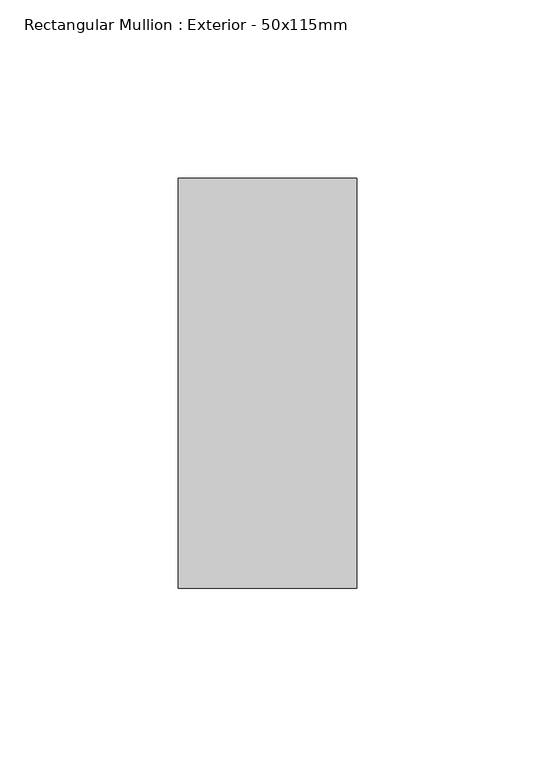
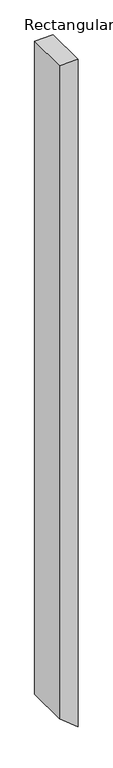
"""IFC4 building model written with IfcOpenShell, lengths in millimetres: member geometry, Rectangular Mullion : Exterior - 50x115mm."""

import ifcopenshell
import ifcopenshell.guid

model = None  # the IFC model being written
_history = None  # IfcOwnerHistory: only IFC2X3 demands one
_inside = {}  # id of a spatial element -> (the spatial element, [elements in it])
_under = {}  # id of a project, library or spatial element -> (it, [spatial elements below it])
_declared = {}  # id of a project -> (the project, [libraries it declares])
_typed = {}  # id of a type object -> (the type object, [elements of that type])
_made_of = {}  # id of a material, layer set ... -> (it, [elements and type objects made of it])


def new_model(schema):
    """Start an empty IFC model of exactly this schema.

    Asked for "IFC4X3", IfcOpenShell would pick the latest addendum, in which some entities
    have other attributes; the version numbers below select the first issue.
    IFC2X3 requires an IfcOwnerHistory on every rooted entity: one is made here for all.
    """
    global model, _history
    if schema == "IFC4X3":
        model = ifcopenshell.file(schema_version=(4, 3, 0, 0))
    else:
        model = ifcopenshell.file(schema=schema)
    _inside.clear()
    _under.clear()
    _declared.clear()
    _typed.clear()
    _made_of.clear()
    _history = None
    if model.schema == "IFC2X3":
        org = make("IfcOrganization", Name="unknown")
        user = make(
            "IfcPersonAndOrganization",
            ThePerson=make("IfcPerson", FamilyName="unknown"),
            TheOrganization=org,
        )
        app = make(
            "IfcApplication",
            ApplicationDeveloper=org,
            Version="unknown",
            ApplicationFullName="unknown",
            ApplicationIdentifier="unknown",
        )
        _history = make(
            "IfcOwnerHistory",
            OwningUser=user,
            OwningApplication=app,
            ChangeAction="ADDED",
            CreationDate=0,
        )
    return model


def make(cls, **values):
    """One entity of the class cls with the attributes given. An attribute that is None is left unset."""
    return model.create_entity(
        cls, **{name: value for name, value in values.items() if value is not None}
    )


def rooted(cls, **values):
    """An entity with a GlobalId (a new one), such as an element, a storey or a relation."""
    return make(cls, GlobalId=ifcopenshell.guid.new(), OwnerHistory=_history, **values)


def si_unit(unit_type, name, prefix=None):
    """IfcSIUnit, for example si_unit("LENGTHUNIT", "METRE", prefix="MILLI")."""
    return make("IfcSIUnit", UnitType=unit_type, Prefix=prefix, Name=name)


def assignment(units):
    """IfcUnitAssignment: the units of a project."""
    return None if units is None else make("IfcUnitAssignment", Units=units)


def point(xyz):
    """IfcCartesianPoint."""
    return None if xyz is None else make("IfcCartesianPoint", Coordinates=xyz)


def direction(xyz):
    """IfcDirection."""
    return None if xyz is None else make("IfcDirection", DirectionRatios=xyz)


def frame(location, z_axis=None, x_axis=None):
    """IfcAxis2Placement3D, a coordinate frame: its origin and axes. An axis left out is left unset."""
    return make(
        "IfcAxis2Placement3D",
        Location=point(location),
        Axis=direction(z_axis),
        RefDirection=direction(x_axis),
    )


def origin():
    """The frame at (0, 0, 0) with its axes left unset."""
    return frame((0.0, 0.0, 0.0))


def place(relative_to, where):
    """IfcLocalPlacement: puts the frame where relative to a parent placement (None: the world)."""
    return make(
        "IfcLocalPlacement", PlacementRelTo=relative_to, RelativePlacement=where
    )


def context(
    kind, dimensions, precision=None, world=None, true_north=None, identifier=None
):
    """IfcGeometricRepresentationContext, for example the 3D "Model" context."""
    return make(
        "IfcGeometricRepresentationContext",
        ContextIdentifier=identifier,
        ContextType=kind,
        CoordinateSpaceDimension=dimensions,
        Precision=precision,
        WorldCoordinateSystem=world,
        TrueNorth=true_north,
    )


def project(units=None, contexts=None):
    """IfcProject with its units and contexts."""
    return rooted(
        "IfcProject",
        Name="project",
        RepresentationContexts=contexts,
        UnitsInContext=assignment(units),
    )


def spatial(cls, under=None, at=None, **own):
    """A site, building, storey or space (cls), placed at a placement, below another one or the project."""
    s = rooted(cls, ObjectPlacement=at, **own)
    if under is not None:
        _under.setdefault(under.id(), (under, []))[1].append(s)
    return s


def polyline(points):
    """IfcPolyline through the points."""
    return make("IfcPolyline", Points=[point(p) for p in points])


def outline(outer, holes=None, kind="AREA"):
    """IfcArbitraryClosedProfileDef: a profile drawn as a closed curve; with holes, ...WithVoids."""
    if holes is None:
        return make("IfcArbitraryClosedProfileDef", ProfileType=kind, OuterCurve=outer)
    return make(
        "IfcArbitraryProfileDefWithVoids",
        ProfileType=kind,
        OuterCurve=outer,
        InnerCurves=holes,
    )


def extrude(swept, where, along, depth):
    """IfcExtrudedAreaSolid: the profile swept, set in the frame where, extruded along a direction by depth."""
    return make(
        "IfcExtrudedAreaSolid",
        SweptArea=swept,
        Position=where,
        ExtrudedDirection=direction(along),
        Depth=depth,
    )


def shape(context_of_items, identifier, shape_type, items):
    """IfcShapeRepresentation: the items that make up one representation, for example the "Body"."""
    return make(
        "IfcShapeRepresentation",
        ContextOfItems=context_of_items,
        RepresentationIdentifier=identifier,
        RepresentationType=shape_type,
        Items=items,
    )


def source(mapping_origin, context_of_items, identifier, shape_type, items):
    """IfcRepresentationMap: a shape defined once, which mapped items show again and again."""
    return make(
        "IfcRepresentationMap",
        MappingOrigin=mapping_origin,
        MappedRepresentation=shape(context_of_items, identifier, shape_type, items),
    )


def transform(
    local_origin,
    x_axis=None,
    y_axis=None,
    z_axis=None,
    scale=None,
    scale2=None,
    scale3=None,
    uniform=True,
):
    """IfcCartesianTransformationOperator3D, or its non-uniform kind. x_axis, y_axis, z_axis: its Axis1, 2, 3."""
    if uniform:
        return make(
            "IfcCartesianTransformationOperator3D",
            Axis1=direction(x_axis),
            Axis2=direction(y_axis),
            LocalOrigin=point(local_origin),
            Scale=scale,
            Axis3=direction(z_axis),
        )
    return make(
        "IfcCartesianTransformationOperator3DnonUniform",
        Axis1=direction(x_axis),
        Axis2=direction(y_axis),
        LocalOrigin=point(local_origin),
        Scale=scale,
        Axis3=direction(z_axis),
        Scale2=scale2,
        Scale3=scale3,
    )


def mapped(mapping_source, mapping_target):
    """IfcMappedItem: shows the shape of a source again, moved by a transform."""
    return make(
        "IfcMappedItem", MappingSource=mapping_source, MappingTarget=mapping_target
    )


def made_of(thing, what):
    """Note that an element or type object is made of a material, layer set ...; save() writes the relation."""
    if what is not None:
        _made_of.setdefault(what.id(), (what, []))[1].append(thing)
    return thing


def element(
    cls,
    number,
    at=None,
    inside=None,
    cuts=None,
    type_object=None,
    material=None,
    context=None,
    identifier="Body",
    shape_type=None,
    held_by="IfcProductDefinitionShape",
    body=None,
    shapes=None,
    **own,
):
    """One element of the class cls, such as IfcWall. Its Tag is "e" and its number.

    at: its placement. inside: the storey or other place that contains it. cuts: it is an
    opening in that element (IfcRelVoidsElement). A single representation is given by context,
    identifier, shape_type and body (its items); several are given by shapes. held_by: the class
    of the entity that holds the representations. save() writes the other relations.
    """
    e = rooted(cls, Tag="e%d" % number, ObjectPlacement=at, **own)
    if body is not None:
        shapes = [shape(context, identifier, shape_type, body)]
    if shapes is not None:
        e.Representation = make(held_by, Representations=shapes)
    if inside is not None:
        _inside.setdefault(inside.id(), (inside, []))[1].append(e)
    if cuts is not None:
        rooted(
            "IfcRelVoidsElement", RelatingBuildingElement=cuts, RelatedOpeningElement=e
        )
    if type_object is not None:
        _typed.setdefault(type_object.id(), (type_object, []))[1].append(e)
    return made_of(e, material)


def aggregate(whole, parts):
    """IfcRelAggregates: a whole, such as a stair, and the parts it consists of."""
    return rooted("IfcRelAggregates", RelatingObject=whole, RelatedObjects=parts)


def save(model, path):
    """Write the relations noted so far, then the file.

    IfcRelAggregates (storeys below a building ...), IfcRelContainedInSpatialStructure (elements
    in a storey), IfcRelDefinesByType, IfcRelAssociatesMaterial and IfcRelDeclares: one each for
    every whole, place, type object, material and project.
    """
    for whole, parts in _under.values():
        aggregate(whole, parts)
    for where, things in _inside.values():
        rooted(
            "IfcRelContainedInSpatialStructure",
            RelatedElements=things,
            RelatingStructure=where,
        )
    for kind, things in _typed.values():
        rooted("IfcRelDefinesByType", RelatedObjects=things, RelatingType=kind)
    for what, things in _made_of.values():
        rooted("IfcRelAssociatesMaterial", RelatedObjects=things, RelatingMaterial=what)
    for by, libraries in _declared.values():
        rooted("IfcRelDeclares", RelatingContext=by, RelatedDefinitions=libraries)
    model.write(path)


def rectangular_mullion_exterior_50x115mm_56454b0a(model_context):
    return source(origin(), model_context, "Body", "SweptSolid", [
        extrude(outline(polyline([(0.0, 0.0), (0.0, -50.0), (-1861.0643048, -50.0), (-1901.5535064, 0.0), (0.0, 0.0)])), frame((0.0, 0.0, 0.0), z_axis=(0.0, 1.0, 0.0), x_axis=(0.0, 0.0, 1.0)), (0.0, 0.0, 1.0), 115.0),
    ])


if __name__ == "__main__":
    model = new_model("IFC4")
    model_context = context("Model", 3, world=origin())
    ifc_project = project(units=[si_unit("LENGTHUNIT", "METRE", prefix="MILLI")], contexts=[model_context])
    site = spatial("IfcSite", under=ifc_project)
    building = spatial("IfcBuilding", under=site)
    placement = place(None, origin())
    rectangular_mullion_exterior_50x115mm_shape = rectangular_mullion_exterior_50x115mm_56454b0a(model_context)
    element("IfcMember", 1, ObjectType="Rectangular Mullion : Exterior - 50x115mm", at=placement, inside=building, context=model_context, shape_type="MappedRepresentation", body=[
        mapped(rectangular_mullion_exterior_50x115mm_shape, transform((0.0, 0.0, 0.0), x_axis=(1.0, 0.0, 0.0), y_axis=(0.0, 1.0, 0.0), z_axis=(0.0, 0.0, 1.0))),
    ])
    save(model, "model.ifc")
